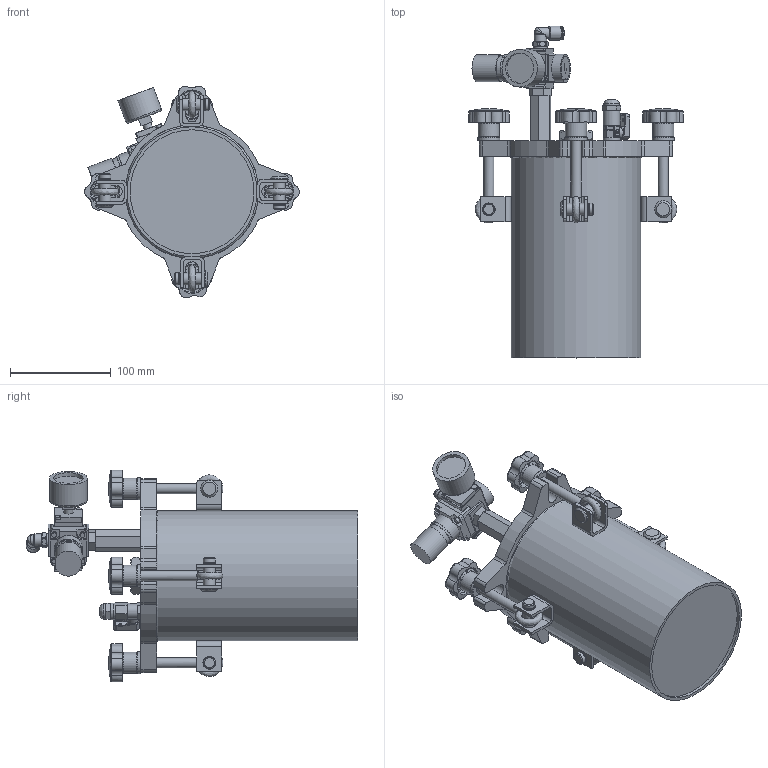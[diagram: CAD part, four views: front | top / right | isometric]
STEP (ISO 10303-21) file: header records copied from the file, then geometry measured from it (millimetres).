
FILE_DESCRIPTION (( 'STEP AP214' ), '1' );
FILE_NAME ('PT2.STEP', '2024-10-11T14:34:19', ( '' ), ( '' ), 'SwSTEP 2.0', 'SolidWorks 2024', '' );
FILE_SCHEMA (( 'AUTOMOTIVE_DESIGN' ));
Length unit declared in the file: millimetre
Products named in the file (1): PT2
Bounding box: 212.98 x 329.5 x 210.03 mm (x, y, z)
Volume: 918335.8 mm3; surface area: 373146.4 mm2
Topology: 44 solids, 55 shells, 1390 faces, 3483 edges, 2272 vertices
Faces by surface type: plane 702, cylinder 356, bspline 172, cone 103, torus 57
Full cylindrical faces by diameter (mm): 1.9 x1, 2 x1, 3 x1, 4.5 x1, 5 x4, 5.5 x1, 5.6 x4, 6 x7, 6.15 x1, 7 x1, 7.4 x1, 7.5 x1, 8 x2, 8.15 x1, 8.3 x1, 8.376 x4, 8.566 x2, 9 x4, 9.4 x1, 10 x5, 10.4 x4, 11 x6, 11.445 x2, 11.5 x1, 11.6 x1, 11.7 x1, 11.8 x2, 12 x9, 12.5 x1, 12.7 x8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
Entity records: 57859 total; most frequent: CARTESIAN_POINT 27071, ORIENTED_EDGE 6288, DIRECTION 5641, EDGE_CURVE 3144, VERTEX_POINT 2163, AXIS2_PLACEMENT_3D 2030, EDGE_LOOP 1753, VECTOR 1581
